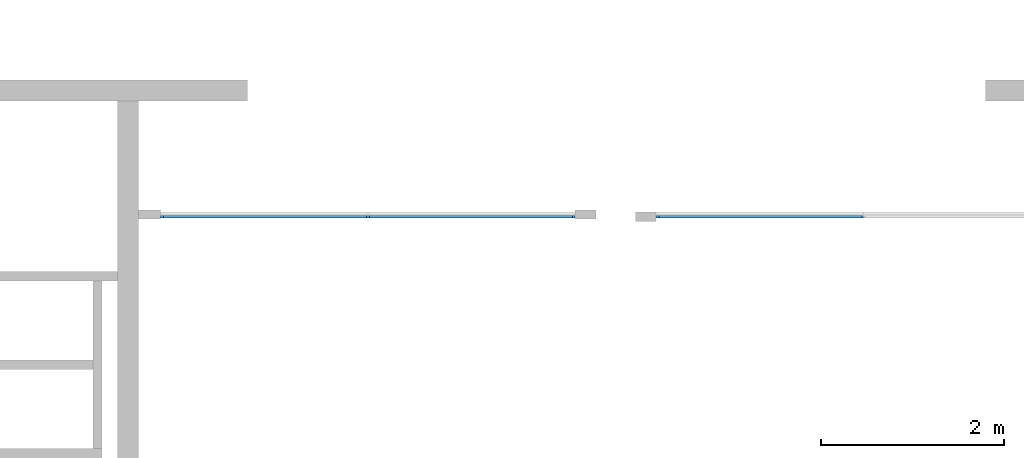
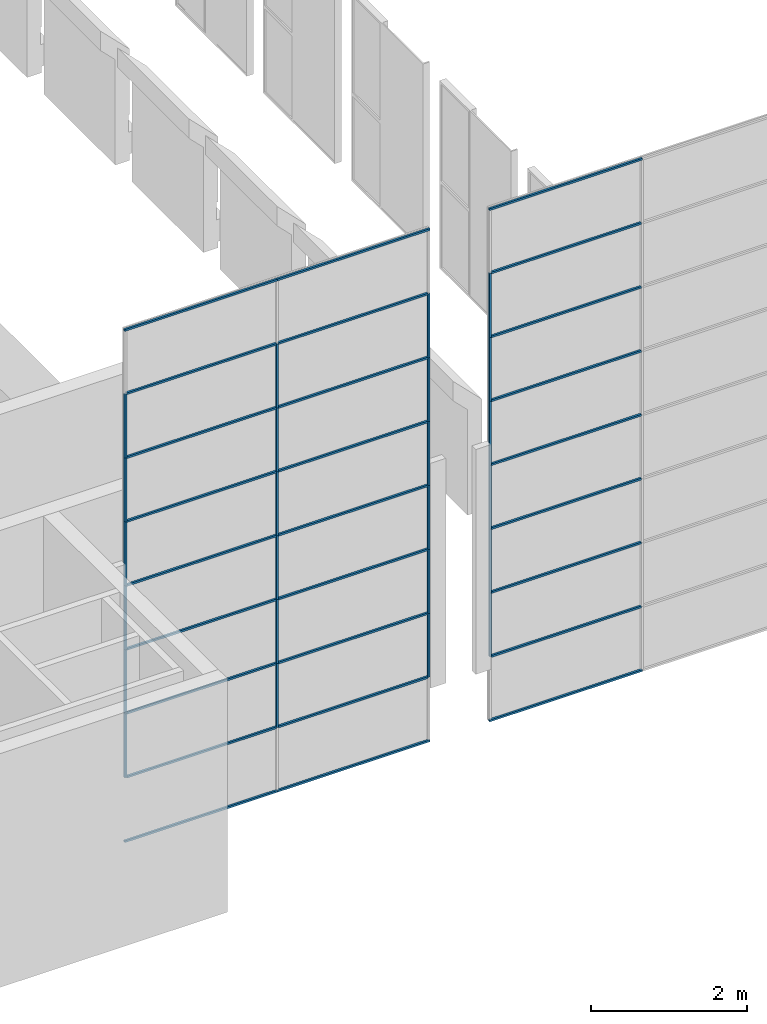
# One storey, part 2 of 16: 51 members, 2 elements without a shape of their own.
"""IFC2X3 building model written with IfcOpenShell, lengths in millimetres."""

from ifc_helpers import new_model, entity, si_unit, converted_unit, derived_unit, direction, frame, origin, origin_2d_with_axis, place, context, subcontext, project, spatial, rectangle, extrude, source, transform, mapped, material, type_object, type_shapes, element, aggregate, save


model = new_model("IFC2X3")

# Units and contexts
model_context = context("Model", 3, precision=0.01, world=origin(), true_north=direction((6.12303176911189e-17, 1.0)))
body_context = subcontext(model_context, "Body", "Model", "MODEL_VIEW")
ifc_project = project(units=[si_unit("LENGTHUNIT", "METRE", prefix="MILLI"), si_unit("AREAUNIT", "SQUARE_METRE"), si_unit("VOLUMEUNIT", "CUBIC_METRE"), converted_unit("PLANEANGLEUNIT", "DEGREE", entity("IfcRatioMeasure", 0.0174532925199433), si_unit("PLANEANGLEUNIT", "RADIAN"), dimensions=[0, 0, 0, 0, 0, 0, 0]), si_unit("MASSUNIT", "GRAM", prefix="KILO"), derived_unit("MASSDENSITYUNIT", [(si_unit("MASSUNIT", "GRAM", prefix="KILO"), 1), (si_unit("LENGTHUNIT", "METRE"), -3)]), derived_unit("MOMENTOFINERTIAUNIT", [(si_unit("LENGTHUNIT", "METRE"), 4)]), si_unit("TIMEUNIT", "SECOND"), si_unit("FREQUENCYUNIT", "HERTZ"), si_unit("THERMODYNAMICTEMPERATUREUNIT", "DEGREE_CELSIUS"), derived_unit("THERMALTRANSMITTANCEUNIT", [(si_unit("MASSUNIT", "GRAM", prefix="KILO"), 1), (si_unit("THERMODYNAMICTEMPERATUREUNIT", "KELVIN"), -1), (si_unit("TIMEUNIT", "SECOND"), -3)]), derived_unit("VOLUMETRICFLOWRATEUNIT", [(si_unit("LENGTHUNIT", "METRE"), 3), (si_unit("TIMEUNIT", "SECOND"), -1)]), si_unit("ELECTRICCURRENTUNIT", "AMPERE"), si_unit("ELECTRICVOLTAGEUNIT", "VOLT"), si_unit("POWERUNIT", "WATT"), si_unit("FORCEUNIT", "NEWTON", prefix="KILO"), si_unit("ILLUMINANCEUNIT", "LUX"), si_unit("LUMINOUSFLUXUNIT", "LUMEN"), si_unit("LUMINOUSINTENSITYUNIT", "CANDELA"), derived_unit("USERDEFINED", [(si_unit("MASSUNIT", "GRAM", prefix="KILO"), -1), (si_unit("LENGTHUNIT", "METRE"), -2), (si_unit("TIMEUNIT", "SECOND"), 3), (si_unit("LUMINOUSFLUXUNIT", "LUMEN"), 1)]), derived_unit("LINEARVELOCITYUNIT", [(si_unit("LENGTHUNIT", "METRE"), 1), (si_unit("TIMEUNIT", "SECOND"), -1)]), si_unit("PRESSUREUNIT", "PASCAL"), derived_unit("USERDEFINED", [(si_unit("LENGTHUNIT", "METRE"), -2), (si_unit("MASSUNIT", "GRAM", prefix="KILO"), 1), (si_unit("TIMEUNIT", "SECOND"), -2)]), derived_unit("LINEARFORCEUNIT", [(si_unit("MASSUNIT", "GRAM", prefix="KILO"), 1), (si_unit("LENGTHUNIT", "METRE"), 1), (si_unit("TIMEUNIT", "SECOND"), -2), (si_unit("LENGTHUNIT", "METRE"), -1)]), derived_unit("PLANARFORCEUNIT", [(si_unit("MASSUNIT", "GRAM", prefix="KILO"), 1), (si_unit("LENGTHUNIT", "METRE"), 1), (si_unit("TIMEUNIT", "SECOND"), -2), (si_unit("LENGTHUNIT", "METRE"), -2)])], contexts=[model_context])

# Site, building, storey
site_placement = place(None, frame((10627.5135316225, 21939.0796949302, 0.0)))
site = spatial("IfcSite", under=ifc_project, at=site_placement, Name="Default", CompositionType="ELEMENT")
building_placement = place(site_placement, origin())
building = spatial("IfcBuilding", under=site, at=building_placement, CompositionType="ELEMENT")
storey_placement = place(building_placement, frame((0.0, 0.0, 3660.0)))
storey = spatial("IfcBuildingStorey", under=building, at=storey_placement, Name="R+1", CompositionType="ELEMENT", Elevation=3660.0)

# Curtain wall, members
curtain_wall_type = type_object("IfcCurtainWallType", Name="Curtain Wall:Curtain_Wall-Exterior_Glazing", PredefinedType="NOTDEFINED")
curtain_wall_1_placement = place(storey_placement, frame((0.0, 0.0, -3660.0)))
curtain_wall_1 = element("IfcCurtainWall", 1, at=curtain_wall_1_placement, inside=storey, type_object=curtain_wall_type, Name="Curtain Wall:Curtain_Wall-Exterior_Glazing", ObjectType="Curtain Wall:Curtain_Wall-Exterior_Glazing")
ifc_material = material(Name="Aluminium")
member_type_1 = type_object("IfcMemberType", Name="Rectangular Mullion:30mm_Square", PredefinedType="MULLION", material=ifc_material)
shared_shape_1 = source(origin(), body_context, "Body", "SweptSolid", [
    extrude(rectangle(XDim=30.0, YDim=30.0, at=origin_2d_with_axis()), frame((-15.0, 0.0, -2260.0), z_axis=(0.0, 0.0, 1.0), x_axis=(0.0, -1.0, 0.0)), (0.0, 0.0, 1.0), 2260.0),
])
type_shapes(member_type_1, [shared_shape_1])
member_1_placement = place(storey_placement, frame((26136.4616023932, -18895.8331484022, 7190.0), z_axis=(1.0, 0.0, 0.0), x_axis=(0.0, 0.0, 1.0)))
member_1 = element("IfcMember", 2, at=member_1_placement, type_object=member_type_1, material=ifc_material, Name="Rectangular Mullion:30mm_Square", ObjectType="Rectangular Mullion:30mm_Square", context=body_context, shape_type="MappedRepresentation", body=[
    mapped(shared_shape_1, transform((0.0, 0.0, 0.0), scale=1.0)),
])
member_type_2 = type_object("IfcMemberType", Name="Rectangular Mullion:30mm_Square", PredefinedType="MULLION", material=ifc_material)
shared_shape_2 = source(origin(), body_context, "Body", "SweptSolid", [
    extrude(rectangle(XDim=30.0, YDim=30.0, at=origin_2d_with_axis()), frame((-15.0, 0.0, -2260.0), z_axis=(0.0, 0.0, 1.0), x_axis=(0.0, -1.0, 0.0)), (0.0, 0.0, 1.0), 2260.0),
])
type_shapes(member_type_2, [shared_shape_2])
member_2_placement = place(storey_placement, frame((23876.4616023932, -18895.8331484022, 7190.0), z_axis=(1.0, 0.0, 0.0), x_axis=(0.0, 0.0, 1.0)))
member_2 = element("IfcMember", 3, at=member_2_placement, type_object=member_type_2, material=ifc_material, Name="Rectangular Mullion:30mm_Square", ObjectType="Rectangular Mullion:30mm_Square", context=body_context, shape_type="MappedRepresentation", body=[
    mapped(shared_shape_2, transform((0.0, 0.0, 0.0), scale=1.0)),
])
member_type_3 = type_object("IfcMemberType", Name="Rectangular Mullion:30mm_Square", PredefinedType="MULLION", material=ifc_material)
shared_shape_3 = source(origin(), body_context, "Body", "SweptSolid", [
    extrude(rectangle(XDim=30.0, YDim=30.0, at=origin_2d_with_axis()), frame((0.0, 0.0, -2215.0), z_axis=(0.0, 0.0, 1.0), x_axis=(0.0, -1.0, 0.0)), (0.0, 0.0, 1.0), 2215.0),
])
type_shapes(member_type_3, [shared_shape_3])
member_3_placement = place(storey_placement, frame((23861.4616023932, -18895.8331484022, 171.263601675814), z_axis=(1.0, 0.0, 0.0), x_axis=(0.0, 0.0, 1.0)))
member_3 = element("IfcMember", 4, at=member_3_placement, type_object=member_type_3, material=ifc_material, Name="Rectangular Mullion:30mm_Square", ObjectType="Rectangular Mullion:30mm_Square", context=body_context, shape_type="MappedRepresentation", body=[
    mapped(shared_shape_3, transform((0.0, 0.0, 0.0), scale=1.0)),
])
member_4_placement = place(storey_placement, frame((26106.4616023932, -18895.8331484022, 171.263601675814), z_axis=(1.0, 0.0, 0.0), x_axis=(0.0, 0.0, 1.0)))
member_4 = element("IfcMember", 5, at=member_4_placement, type_object=member_type_3, material=ifc_material, Name="Rectangular Mullion:30mm_Square", ObjectType="Rectangular Mullion:30mm_Square", context=body_context, shape_type="MappedRepresentation", body=[
    mapped(shared_shape_3, transform((0.0, 0.0, 0.0), scale=1.0)),
])
member_5_placement = place(storey_placement, frame((23861.4616023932, -18895.8331484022, 1171.79737286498), z_axis=(1.0, 0.0, 0.0), x_axis=(0.0, 0.0, 1.0)))
member_5 = element("IfcMember", 6, at=member_5_placement, type_object=member_type_3, material=ifc_material, Name="Rectangular Mullion:30mm_Square", ObjectType="Rectangular Mullion:30mm_Square", context=body_context, shape_type="MappedRepresentation", body=[
    mapped(shared_shape_3, transform((0.0, 0.0, 0.0), scale=1.0)),
])
member_6_placement = place(storey_placement, frame((26106.4616023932, -18895.8331484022, 1171.79737286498), z_axis=(1.0, 0.0, 0.0), x_axis=(0.0, 0.0, 1.0)))
member_6 = element("IfcMember", 7, at=member_6_placement, type_object=member_type_3, material=ifc_material, Name="Rectangular Mullion:30mm_Square", ObjectType="Rectangular Mullion:30mm_Square", context=body_context, shape_type="MappedRepresentation", body=[
    mapped(shared_shape_3, transform((0.0, 0.0, 0.0), scale=1.0)),
])
member_7_placement = place(storey_placement, frame((23861.4616023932, -18895.8331484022, 2172.33114405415), z_axis=(1.0, 0.0, 0.0), x_axis=(0.0, 0.0, 1.0)))
member_7 = element("IfcMember", 8, at=member_7_placement, type_object=member_type_3, material=ifc_material, Name="Rectangular Mullion:30mm_Square", ObjectType="Rectangular Mullion:30mm_Square", context=body_context, shape_type="MappedRepresentation", body=[
    mapped(shared_shape_3, transform((0.0, 0.0, 0.0), scale=1.0)),
])
member_8_placement = place(storey_placement, frame((26106.4616023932, -18895.8331484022, 2172.33114405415), z_axis=(1.0, 0.0, 0.0), x_axis=(0.0, 0.0, 1.0)))
member_8 = element("IfcMember", 9, at=member_8_placement, type_object=member_type_3, material=ifc_material, Name="Rectangular Mullion:30mm_Square", ObjectType="Rectangular Mullion:30mm_Square", context=body_context, shape_type="MappedRepresentation", body=[
    mapped(shared_shape_3, transform((0.0, 0.0, 0.0), scale=1.0)),
])
member_9_placement = place(storey_placement, frame((23861.4616023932, -18895.8331484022, 3172.86491524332), z_axis=(1.0, 0.0, 0.0), x_axis=(0.0, 0.0, 1.0)))
member_9 = element("IfcMember", 10, at=member_9_placement, type_object=member_type_3, material=ifc_material, Name="Rectangular Mullion:30mm_Square", ObjectType="Rectangular Mullion:30mm_Square", context=body_context, shape_type="MappedRepresentation", body=[
    mapped(shared_shape_3, transform((0.0, 0.0, 0.0), scale=1.0)),
])
member_10_placement = place(storey_placement, frame((26106.4616023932, -18895.8331484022, 3172.86491524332), z_axis=(1.0, 0.0, 0.0), x_axis=(0.0, 0.0, 1.0)))
member_10 = element("IfcMember", 11, at=member_10_placement, type_object=member_type_3, material=ifc_material, Name="Rectangular Mullion:30mm_Square", ObjectType="Rectangular Mullion:30mm_Square", context=body_context, shape_type="MappedRepresentation", body=[
    mapped(shared_shape_3, transform((0.0, 0.0, 0.0), scale=1.0)),
])
member_11_placement = place(storey_placement, frame((23861.4616023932, -18895.8331484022, 4173.39868643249), z_axis=(1.0, 0.0, 0.0), x_axis=(0.0, 0.0, 1.0)))
member_11 = element("IfcMember", 12, at=member_11_placement, type_object=member_type_3, material=ifc_material, Name="Rectangular Mullion:30mm_Square", ObjectType="Rectangular Mullion:30mm_Square", context=body_context, shape_type="MappedRepresentation", body=[
    mapped(shared_shape_3, transform((0.0, 0.0, 0.0), scale=1.0)),
])
member_12_placement = place(storey_placement, frame((26106.4616023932, -18895.8331484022, 4173.39868643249), z_axis=(1.0, 0.0, 0.0), x_axis=(0.0, 0.0, 1.0)))
member_12 = element("IfcMember", 13, at=member_12_placement, type_object=member_type_3, material=ifc_material, Name="Rectangular Mullion:30mm_Square", ObjectType="Rectangular Mullion:30mm_Square", context=body_context, shape_type="MappedRepresentation", body=[
    mapped(shared_shape_3, transform((0.0, 0.0, 0.0), scale=1.0)),
])
member_13_placement = place(storey_placement, frame((23861.4616023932, -18895.8331484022, 5173.93245762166), z_axis=(1.0, 0.0, 0.0), x_axis=(0.0, 0.0, 1.0)))
member_13 = element("IfcMember", 14, at=member_13_placement, type_object=member_type_3, material=ifc_material, Name="Rectangular Mullion:30mm_Square", ObjectType="Rectangular Mullion:30mm_Square", context=body_context, shape_type="MappedRepresentation", body=[
    mapped(shared_shape_3, transform((0.0, 0.0, 0.0), scale=1.0)),
])
member_14_placement = place(storey_placement, frame((26106.4616023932, -18895.8331484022, 5173.93245762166), z_axis=(1.0, 0.0, 0.0), x_axis=(0.0, 0.0, 1.0)))
member_14 = element("IfcMember", 15, at=member_14_placement, type_object=member_type_3, material=ifc_material, Name="Rectangular Mullion:30mm_Square", ObjectType="Rectangular Mullion:30mm_Square", context=body_context, shape_type="MappedRepresentation", body=[
    mapped(shared_shape_3, transform((0.0, 0.0, 0.0), scale=1.0)),
])
member_15_placement = place(storey_placement, frame((23861.4616023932, -18895.8331484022, 6174.46622881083), z_axis=(1.0, 0.0, 0.0), x_axis=(0.0, 0.0, 1.0)))
member_15 = element("IfcMember", 16, at=member_15_placement, type_object=member_type_3, material=ifc_material, Name="Rectangular Mullion:30mm_Square", ObjectType="Rectangular Mullion:30mm_Square", context=body_context, shape_type="MappedRepresentation", body=[
    mapped(shared_shape_3, transform((0.0, 0.0, 0.0), scale=1.0)),
])
member_16_placement = place(storey_placement, frame((26106.4616023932, -18895.8331484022, 6174.46622881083), z_axis=(1.0, 0.0, 0.0), x_axis=(0.0, 0.0, 1.0)))
member_16 = element("IfcMember", 17, at=member_16_placement, type_object=member_type_3, material=ifc_material, Name="Rectangular Mullion:30mm_Square", ObjectType="Rectangular Mullion:30mm_Square", context=body_context, shape_type="MappedRepresentation", body=[
    mapped(shared_shape_3, transform((0.0, 0.0, 0.0), scale=1.0)),
])
member_type_4 = type_object("IfcMemberType", Name="Rectangular Mullion:30mm_Square", PredefinedType="MULLION", material=ifc_material)
shared_shape_4 = source(origin(), body_context, "Body", "SweptSolid", [
    extrude(rectangle(XDim=30.0, YDim=30.0, at=origin_2d_with_axis()), frame((0.0, 0.0, -1000.53377118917), z_axis=(0.0, 0.0, 1.0), x_axis=(0.0, -1.0, 0.0)), (0.0, 0.0, 1.0), 1000.53377118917),
])
type_shapes(member_type_4, [shared_shape_4])
member_17_placement = place(storey_placement, frame((23876.4616023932, -18895.8331484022, 171.263601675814), z_axis=(0.0, 0.0, -1.0), x_axis=(1.0, 0.0, 0.0)))
member_17 = element("IfcMember", 18, at=member_17_placement, type_object=member_type_4, material=ifc_material, Name="Rectangular Mullion:30mm_Square", ObjectType="Rectangular Mullion:30mm_Square", context=body_context, shape_type="MappedRepresentation", body=[
    mapped(shared_shape_4, transform((0.0, 0.0, 0.0), scale=1.0)),
])
member_18_placement = place(storey_placement, frame((23876.4616023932, -18895.8331484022, 1171.79737286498), z_axis=(0.0, 0.0, -1.0), x_axis=(1.0, 0.0, 0.0)))
member_18 = element("IfcMember", 19, at=member_18_placement, type_object=member_type_4, material=ifc_material, Name="Rectangular Mullion:30mm_Square", ObjectType="Rectangular Mullion:30mm_Square", context=body_context, shape_type="MappedRepresentation", body=[
    mapped(shared_shape_4, transform((0.0, 0.0, 0.0), scale=1.0)),
])
member_19_placement = place(storey_placement, frame((23876.4616023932, -18895.8331484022, 2172.33114405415), z_axis=(0.0, 0.0, -1.0), x_axis=(1.0, 0.0, 0.0)))
member_19 = element("IfcMember", 20, at=member_19_placement, type_object=member_type_4, material=ifc_material, Name="Rectangular Mullion:30mm_Square", ObjectType="Rectangular Mullion:30mm_Square", context=body_context, shape_type="MappedRepresentation", body=[
    mapped(shared_shape_4, transform((0.0, 0.0, 0.0), scale=1.0)),
])
member_20_placement = place(storey_placement, frame((23876.4616023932, -18895.8331484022, 3172.86491524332), z_axis=(0.0, 0.0, -1.0), x_axis=(1.0, 0.0, 0.0)))
member_20 = element("IfcMember", 21, at=member_20_placement, type_object=member_type_4, material=ifc_material, Name="Rectangular Mullion:30mm_Square", ObjectType="Rectangular Mullion:30mm_Square", context=body_context, shape_type="MappedRepresentation", body=[
    mapped(shared_shape_4, transform((0.0, 0.0, 0.0), scale=1.0)),
])
member_21_placement = place(storey_placement, frame((23876.4616023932, -18895.8331484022, 4173.39868643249), z_axis=(0.0, 0.0, -1.0), x_axis=(1.0, 0.0, 0.0)))
member_21 = element("IfcMember", 22, at=member_21_placement, type_object=member_type_4, material=ifc_material, Name="Rectangular Mullion:30mm_Square", ObjectType="Rectangular Mullion:30mm_Square", context=body_context, shape_type="MappedRepresentation", body=[
    mapped(shared_shape_4, transform((0.0, 0.0, 0.0), scale=1.0)),
])
member_22_placement = place(storey_placement, frame((23876.4616023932, -18895.8331484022, 5173.93245762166), z_axis=(0.0, 0.0, -1.0), x_axis=(1.0, 0.0, 0.0)))
member_22 = element("IfcMember", 23, at=member_22_placement, type_object=member_type_4, material=ifc_material, Name="Rectangular Mullion:30mm_Square", ObjectType="Rectangular Mullion:30mm_Square", context=body_context, shape_type="MappedRepresentation", body=[
    mapped(shared_shape_4, transform((0.0, 0.0, 0.0), scale=1.0)),
])
member_type_5 = type_object("IfcMemberType", Name="Rectangular Mullion:30mm_Square", PredefinedType="MULLION", material=ifc_material)
shared_shape_5 = source(origin(), body_context, "Body", "SweptSolid", [
    extrude(rectangle(XDim=30.0, YDim=30.0, at=origin_2d_with_axis()), frame((-15.0, 0.0, -1000.53377118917), z_axis=(0.0, 0.0, 1.0), x_axis=(0.0, -1.0, 0.0)), (0.0, 0.0, 1.0), 1000.53377118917),
])
type_shapes(member_type_5, [shared_shape_5])
member_23_placement = place(storey_placement, frame((21616.4616023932, -18895.8331484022, 1171.79737286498), z_axis=(0.0, 0.0, 1.0), x_axis=(-1.0, 0.0, 0.0)))
member_23 = element("IfcMember", 24, at=member_23_placement, type_object=member_type_5, material=ifc_material, Name="Rectangular Mullion:30mm_Square", ObjectType="Rectangular Mullion:30mm_Square", context=body_context, shape_type="MappedRepresentation", body=[
    mapped(shared_shape_5, transform((0.0, 0.0, 0.0), scale=1.0)),
])
member_24_placement = place(storey_placement, frame((21616.4616023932, -18895.8331484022, 2172.33114405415), z_axis=(0.0, 0.0, 1.0), x_axis=(-1.0, 0.0, 0.0)))
member_24 = element("IfcMember", 25, at=member_24_placement, type_object=member_type_5, material=ifc_material, Name="Rectangular Mullion:30mm_Square", ObjectType="Rectangular Mullion:30mm_Square", context=body_context, shape_type="MappedRepresentation", body=[
    mapped(shared_shape_5, transform((0.0, 0.0, 0.0), scale=1.0)),
])
member_25_placement = place(storey_placement, frame((21616.4616023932, -18895.8331484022, 3172.86491524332), z_axis=(0.0, 0.0, 1.0), x_axis=(-1.0, 0.0, 0.0)))
member_25 = element("IfcMember", 26, at=member_25_placement, type_object=member_type_5, material=ifc_material, Name="Rectangular Mullion:30mm_Square", ObjectType="Rectangular Mullion:30mm_Square", context=body_context, shape_type="MappedRepresentation", body=[
    mapped(shared_shape_5, transform((0.0, 0.0, 0.0), scale=1.0)),
])
member_26_placement = place(storey_placement, frame((21616.4616023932, -18895.8331484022, 4173.39868643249), z_axis=(0.0, 0.0, 1.0), x_axis=(-1.0, 0.0, 0.0)))
member_26 = element("IfcMember", 27, at=member_26_placement, type_object=member_type_5, material=ifc_material, Name="Rectangular Mullion:30mm_Square", ObjectType="Rectangular Mullion:30mm_Square", context=body_context, shape_type="MappedRepresentation", body=[
    mapped(shared_shape_5, transform((0.0, 0.0, 0.0), scale=1.0)),
])
member_27_placement = place(storey_placement, frame((21616.4616023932, -18895.8331484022, 5173.93245762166), z_axis=(0.0, 0.0, 1.0), x_axis=(-1.0, 0.0, 0.0)))
member_27 = element("IfcMember", 28, at=member_27_placement, type_object=member_type_5, material=ifc_material, Name="Rectangular Mullion:30mm_Square", ObjectType="Rectangular Mullion:30mm_Square", context=body_context, shape_type="MappedRepresentation", body=[
    mapped(shared_shape_5, transform((0.0, 0.0, 0.0), scale=1.0)),
])
member_28_placement = place(storey_placement, frame((21616.4616023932, -18895.8331484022, 6174.46622881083), z_axis=(0.0, 0.0, 1.0), x_axis=(-1.0, 0.0, 0.0)))
member_28 = element("IfcMember", 29, at=member_28_placement, type_object=member_type_5, material=ifc_material, Name="Rectangular Mullion:30mm_Square", ObjectType="Rectangular Mullion:30mm_Square", context=body_context, shape_type="MappedRepresentation", body=[
    mapped(shared_shape_5, transform((0.0, 0.0, 0.0), scale=1.0)),
])
member_type_6 = type_object("IfcMemberType", Name="Rectangular Mullion:30mm_Square", PredefinedType="MULLION", material=ifc_material)
shared_shape_6 = source(origin(), body_context, "Body", "SweptSolid", [
    extrude(rectangle(XDim=30.0, YDim=30.0, at=origin_2d_with_axis()), frame((-15.0, 0.0, -2260.0), z_axis=(0.0, 0.0, 1.0), x_axis=(0.0, -1.0, 0.0)), (0.0, 0.0, 1.0), 2260.0),
])
type_shapes(member_type_6, [shared_shape_6])
member_29_placement = place(storey_placement, frame((21616.4616023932, -18895.8331484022, -844.270169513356), z_axis=(-1.0, 0.0, 0.0), x_axis=(0.0, 0.0, -1.0)))
member_29 = element("IfcMember", 30, at=member_29_placement, type_object=member_type_6, material=ifc_material, Name="Rectangular Mullion:30mm_Square", ObjectType="Rectangular Mullion:30mm_Square", context=body_context, shape_type="MappedRepresentation", body=[
    mapped(shared_shape_6, transform((0.0, 0.0, 0.0), scale=1.0)),
])
member_type_7 = type_object("IfcMemberType", Name="Rectangular Mullion:30mm_Square", PredefinedType="MULLION", material=ifc_material)
shared_shape_7 = source(origin(), body_context, "Body", "SweptSolid", [
    extrude(rectangle(XDim=30.0, YDim=30.0, at=origin_2d_with_axis()), frame((-15.0, 0.0, -2260.0), z_axis=(0.0, 0.0, 1.0), x_axis=(0.0, -1.0, 0.0)), (0.0, 0.0, 1.0), 2260.0),
])
type_shapes(member_type_7, [shared_shape_7])
member_30_placement = place(storey_placement, frame((23876.4616023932, -18895.8331484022, -844.270169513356), z_axis=(-1.0, 0.0, 0.0), x_axis=(0.0, 0.0, -1.0)))
member_30 = element("IfcMember", 31, at=member_30_placement, type_object=member_type_7, material=ifc_material, Name="Rectangular Mullion:30mm_Square", ObjectType="Rectangular Mullion:30mm_Square", context=body_context, shape_type="MappedRepresentation", body=[
    mapped(shared_shape_7, transform((0.0, 0.0, 0.0), scale=1.0)),
])
member_type_8 = type_object("IfcMemberType", Name="Rectangular Mullion:30mm_Square", PredefinedType="MULLION", material=ifc_material)
shared_shape_8 = source(origin(), body_context, "Body", "SweptSolid", [
    extrude(rectangle(XDim=30.0, YDim=30.0, at=origin_2d_with_axis()), frame((-15.0, 0.0, -1000.53377118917), z_axis=(0.0, 0.0, 1.0), x_axis=(0.0, -1.0, 0.0)), (0.0, 0.0, 1.0), 1000.53377118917),
])
type_shapes(member_type_8, [shared_shape_8])
member_31_placement = place(storey_placement, frame((26136.4616023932, -18895.8331484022, 171.263601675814), z_axis=(0.0, 0.0, -1.0), x_axis=(1.0, 0.0, 0.0)))
member_31 = element("IfcMember", 32, at=member_31_placement, type_object=member_type_8, material=ifc_material, Name="Rectangular Mullion:30mm_Square", ObjectType="Rectangular Mullion:30mm_Square", context=body_context, shape_type="MappedRepresentation", body=[
    mapped(shared_shape_8, transform((0.0, 0.0, 0.0), scale=1.0)),
])
member_32_placement = place(storey_placement, frame((26136.4616023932, -18895.8331484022, 1171.79737286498), z_axis=(0.0, 0.0, -1.0), x_axis=(1.0, 0.0, 0.0)))
member_32 = element("IfcMember", 33, at=member_32_placement, type_object=member_type_8, material=ifc_material, Name="Rectangular Mullion:30mm_Square", ObjectType="Rectangular Mullion:30mm_Square", context=body_context, shape_type="MappedRepresentation", body=[
    mapped(shared_shape_8, transform((0.0, 0.0, 0.0), scale=1.0)),
])
member_33_placement = place(storey_placement, frame((26136.4616023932, -18895.8331484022, 2172.33114405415), z_axis=(0.0, 0.0, -1.0), x_axis=(1.0, 0.0, 0.0)))
member_33 = element("IfcMember", 34, at=member_33_placement, type_object=member_type_8, material=ifc_material, Name="Rectangular Mullion:30mm_Square", ObjectType="Rectangular Mullion:30mm_Square", context=body_context, shape_type="MappedRepresentation", body=[
    mapped(shared_shape_8, transform((0.0, 0.0, 0.0), scale=1.0)),
])
member_34_placement = place(storey_placement, frame((26136.4616023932, -18895.8331484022, 3172.86491524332), z_axis=(0.0, 0.0, -1.0), x_axis=(1.0, 0.0, 0.0)))
member_34 = element("IfcMember", 35, at=member_34_placement, type_object=member_type_8, material=ifc_material, Name="Rectangular Mullion:30mm_Square", ObjectType="Rectangular Mullion:30mm_Square", context=body_context, shape_type="MappedRepresentation", body=[
    mapped(shared_shape_8, transform((0.0, 0.0, 0.0), scale=1.0)),
])
member_35_placement = place(storey_placement, frame((26136.4616023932, -18895.8331484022, 4173.39868643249), z_axis=(0.0, 0.0, -1.0), x_axis=(1.0, 0.0, 0.0)))
member_35 = element("IfcMember", 36, at=member_35_placement, type_object=member_type_8, material=ifc_material, Name="Rectangular Mullion:30mm_Square", ObjectType="Rectangular Mullion:30mm_Square", context=body_context, shape_type="MappedRepresentation", body=[
    mapped(shared_shape_8, transform((0.0, 0.0, 0.0), scale=1.0)),
])
member_36_placement = place(storey_placement, frame((26136.4616023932, -18895.8331484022, 5173.93245762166), z_axis=(0.0, 0.0, -1.0), x_axis=(1.0, 0.0, 0.0)))
member_36 = element("IfcMember", 37, at=member_36_placement, type_object=member_type_8, material=ifc_material, Name="Rectangular Mullion:30mm_Square", ObjectType="Rectangular Mullion:30mm_Square", context=body_context, shape_type="MappedRepresentation", body=[
    mapped(shared_shape_8, transform((0.0, 0.0, 0.0), scale=1.0)),
])
aggregate(curtain_wall_1, [member_1, member_2, member_3, member_4, member_17, member_23, member_18, member_5, member_6, member_24, member_25, member_26, member_27, member_28, member_19, member_20, member_21, member_22, member_7, member_8, member_9, member_10, member_11, member_12, member_13, member_14, member_15, member_16, member_29, member_30, member_31, member_32, member_33, member_34, member_35, member_36])

curtain_wall_2_placement = place(storey_placement, frame((0.0, 0.0, -3660.0)))
curtain_wall_2 = element("IfcCurtainWall", 38, at=curtain_wall_2_placement, inside=storey, type_object=curtain_wall_type, Name="Curtain Wall:Curtain_Wall-Exterior_Glazing", ObjectType="Curtain Wall:Curtain_Wall-Exterior_Glazing")
member_type_9 = type_object("IfcMemberType", Name="Rectangular Mullion:30mm_Square", PredefinedType="MULLION", material=ifc_material)
shared_shape_9 = source(origin(), body_context, "Body", "SweptSolid", [
    extrude(rectangle(XDim=30.0, YDim=30.0, at=origin_2d_with_axis()), frame((-15.0, 0.0, -2260.0), z_axis=(0.0, 0.0, 1.0), x_axis=(0.0, -1.0, 0.0)), (0.0, 0.0, 1.0), 2260.0),
])
type_shapes(member_type_9, [shared_shape_9])
member_37_placement = place(storey_placement, frame((27018.5113343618, -18895.8331484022, 7190.0), z_axis=(-1.0, 0.0, 0.0), x_axis=(0.0, 0.0, 1.0)))
member_37 = element("IfcMember", 39, at=member_37_placement, type_object=member_type_9, material=ifc_material, Name="Rectangular Mullion:30mm_Square", ObjectType="Rectangular Mullion:30mm_Square", context=body_context, shape_type="MappedRepresentation", body=[
    mapped(shared_shape_9, transform((0.0, 0.0, 0.0), scale=1.0)),
])
member_type_10 = type_object("IfcMemberType", Name="Rectangular Mullion:30mm_Square", PredefinedType="MULLION", material=ifc_material)
shared_shape_10 = source(origin(), body_context, "Body", "SweptSolid", [
    extrude(rectangle(XDim=30.0, YDim=30.0, at=origin_2d_with_axis()), frame((0.0, 0.0, -2215.0), z_axis=(0.0, 0.0, 1.0), x_axis=(0.0, -1.0, 0.0)), (0.0, 0.0, 1.0), 2215.0),
])
type_shapes(member_type_10, [shared_shape_10])
member_38_placement = place(storey_placement, frame((27048.5113343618, -18895.8331484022, 171.263601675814), z_axis=(-1.0, 0.0, 0.0), x_axis=(0.0, 0.0, 1.0)))
member_38 = element("IfcMember", 40, at=member_38_placement, type_object=member_type_10, material=ifc_material, Name="Rectangular Mullion:30mm_Square", ObjectType="Rectangular Mullion:30mm_Square", context=body_context, shape_type="MappedRepresentation", body=[
    mapped(shared_shape_10, transform((0.0, 0.0, 0.0), scale=1.0)),
])
member_39_placement = place(storey_placement, frame((27048.5113343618, -18895.8331484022, 1171.79737286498), z_axis=(-1.0, 0.0, 0.0), x_axis=(0.0, 0.0, 1.0)))
member_39 = element("IfcMember", 41, at=member_39_placement, type_object=member_type_10, material=ifc_material, Name="Rectangular Mullion:30mm_Square", ObjectType="Rectangular Mullion:30mm_Square", context=body_context, shape_type="MappedRepresentation", body=[
    mapped(shared_shape_10, transform((0.0, 0.0, 0.0), scale=1.0)),
])
member_40_placement = place(storey_placement, frame((27048.5113343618, -18895.8331484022, 2172.33114405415), z_axis=(-1.0, 0.0, 0.0), x_axis=(0.0, 0.0, 1.0)))
member_40 = element("IfcMember", 42, at=member_40_placement, type_object=member_type_10, material=ifc_material, Name="Rectangular Mullion:30mm_Square", ObjectType="Rectangular Mullion:30mm_Square", context=body_context, shape_type="MappedRepresentation", body=[
    mapped(shared_shape_10, transform((0.0, 0.0, 0.0), scale=1.0)),
])
member_41_placement = place(storey_placement, frame((27048.5113343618, -18895.8331484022, 3172.86491524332), z_axis=(-1.0, 0.0, 0.0), x_axis=(0.0, 0.0, 1.0)))
member_41 = element("IfcMember", 43, at=member_41_placement, type_object=member_type_10, material=ifc_material, Name="Rectangular Mullion:30mm_Square", ObjectType="Rectangular Mullion:30mm_Square", context=body_context, shape_type="MappedRepresentation", body=[
    mapped(shared_shape_10, transform((0.0, 0.0, 0.0), scale=1.0)),
])
member_42_placement = place(storey_placement, frame((27048.5113343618, -18895.8331484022, 4173.39868643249), z_axis=(-1.0, 0.0, 0.0), x_axis=(0.0, 0.0, 1.0)))
member_42 = element("IfcMember", 44, at=member_42_placement, type_object=member_type_10, material=ifc_material, Name="Rectangular Mullion:30mm_Square", ObjectType="Rectangular Mullion:30mm_Square", context=body_context, shape_type="MappedRepresentation", body=[
    mapped(shared_shape_10, transform((0.0, 0.0, 0.0), scale=1.0)),
])
member_43_placement = place(storey_placement, frame((27048.5113343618, -18895.8331484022, 5173.93245762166), z_axis=(-1.0, 0.0, 0.0), x_axis=(0.0, 0.0, 1.0)))
member_43 = element("IfcMember", 45, at=member_43_placement, type_object=member_type_10, material=ifc_material, Name="Rectangular Mullion:30mm_Square", ObjectType="Rectangular Mullion:30mm_Square", context=body_context, shape_type="MappedRepresentation", body=[
    mapped(shared_shape_10, transform((0.0, 0.0, 0.0), scale=1.0)),
])
member_44_placement = place(storey_placement, frame((27048.5113343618, -18895.8331484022, 6174.46622881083), z_axis=(-1.0, 0.0, 0.0), x_axis=(0.0, 0.0, 1.0)))
member_44 = element("IfcMember", 46, at=member_44_placement, type_object=member_type_10, material=ifc_material, Name="Rectangular Mullion:30mm_Square", ObjectType="Rectangular Mullion:30mm_Square", context=body_context, shape_type="MappedRepresentation", body=[
    mapped(shared_shape_10, transform((0.0, 0.0, 0.0), scale=1.0)),
])
member_type_11 = type_object("IfcMemberType", Name="Rectangular Mullion:30mm_Square", PredefinedType="MULLION", material=ifc_material)
shared_shape_11 = source(origin(), body_context, "Body", "SweptSolid", [
    extrude(rectangle(XDim=30.0, YDim=30.0, at=origin_2d_with_axis()), frame((-15.0, 0.0, -2260.0), z_axis=(0.0, 0.0, 1.0), x_axis=(0.0, -1.0, 0.0)), (0.0, 0.0, 1.0), 2260.0),
])
type_shapes(member_type_11, [shared_shape_11])
member_45_placement = place(storey_placement, frame((29278.5113343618, -18895.8331484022, -844.270169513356), z_axis=(1.0, 0.0, 0.0), x_axis=(0.0, 0.0, -1.0)))
member_45 = element("IfcMember", 47, at=member_45_placement, type_object=member_type_11, material=ifc_material, Name="Rectangular Mullion:30mm_Square", ObjectType="Rectangular Mullion:30mm_Square", context=body_context, shape_type="MappedRepresentation", body=[
    mapped(shared_shape_11, transform((0.0, 0.0, 0.0), scale=1.0)),
])
member_type_12 = type_object("IfcMemberType", Name="Rectangular Mullion:30mm_Square", PredefinedType="MULLION", material=ifc_material)
shared_shape_12 = source(origin(), body_context, "Body", "SweptSolid", [
    extrude(rectangle(XDim=30.0, YDim=30.0, at=origin_2d_with_axis()), frame((-15.0, 0.0, -1000.53377118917), z_axis=(0.0, 0.0, 1.0), x_axis=(0.0, -1.0, 0.0)), (0.0, 0.0, 1.0), 1000.53377118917),
])
type_shapes(member_type_12, [shared_shape_12])
member_46_placement = place(storey_placement, frame((27018.5113343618, -18895.8331484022, 171.263601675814), z_axis=(0.0, 0.0, -1.0), x_axis=(-1.0, 0.0, 0.0)))
member_46 = element("IfcMember", 48, at=member_46_placement, type_object=member_type_12, material=ifc_material, Name="Rectangular Mullion:30mm_Square", ObjectType="Rectangular Mullion:30mm_Square", context=body_context, shape_type="MappedRepresentation", body=[
    mapped(shared_shape_12, transform((0.0, 0.0, 0.0), scale=1.0)),
])
member_47_placement = place(storey_placement, frame((27018.5113343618, -18895.8331484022, 1171.79737286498), z_axis=(0.0, 0.0, -1.0), x_axis=(-1.0, 0.0, 0.0)))
member_47 = element("IfcMember", 49, at=member_47_placement, type_object=member_type_12, material=ifc_material, Name="Rectangular Mullion:30mm_Square", ObjectType="Rectangular Mullion:30mm_Square", context=body_context, shape_type="MappedRepresentation", body=[
    mapped(shared_shape_12, transform((0.0, 0.0, 0.0), scale=1.0)),
])
member_48_placement = place(storey_placement, frame((27018.5113343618, -18895.8331484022, 2172.33114405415), z_axis=(0.0, 0.0, -1.0), x_axis=(-1.0, 0.0, 0.0)))
member_48 = element("IfcMember", 50, at=member_48_placement, type_object=member_type_12, material=ifc_material, Name="Rectangular Mullion:30mm_Square", ObjectType="Rectangular Mullion:30mm_Square", context=body_context, shape_type="MappedRepresentation", body=[
    mapped(shared_shape_12, transform((0.0, 0.0, 0.0), scale=1.0)),
])
member_49_placement = place(storey_placement, frame((27018.5113343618, -18895.8331484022, 3172.86491524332), z_axis=(0.0, 0.0, -1.0), x_axis=(-1.0, 0.0, 0.0)))
member_49 = element("IfcMember", 51, at=member_49_placement, type_object=member_type_12, material=ifc_material, Name="Rectangular Mullion:30mm_Square", ObjectType="Rectangular Mullion:30mm_Square", context=body_context, shape_type="MappedRepresentation", body=[
    mapped(shared_shape_12, transform((0.0, 0.0, 0.0), scale=1.0)),
])
member_50_placement = place(storey_placement, frame((27018.5113343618, -18895.8331484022, 4173.39868643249), z_axis=(0.0, 0.0, -1.0), x_axis=(-1.0, 0.0, 0.0)))
member_50 = element("IfcMember", 52, at=member_50_placement, type_object=member_type_12, material=ifc_material, Name="Rectangular Mullion:30mm_Square", ObjectType="Rectangular Mullion:30mm_Square", context=body_context, shape_type="MappedRepresentation", body=[
    mapped(shared_shape_12, transform((0.0, 0.0, 0.0), scale=1.0)),
])
member_51_placement = place(storey_placement, frame((27018.5113343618, -18895.8331484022, 5173.93245762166), z_axis=(0.0, 0.0, -1.0), x_axis=(-1.0, 0.0, 0.0)))
member_51 = element("IfcMember", 53, at=member_51_placement, type_object=member_type_12, material=ifc_material, Name="Rectangular Mullion:30mm_Square", ObjectType="Rectangular Mullion:30mm_Square", context=body_context, shape_type="MappedRepresentation", body=[
    mapped(shared_shape_12, transform((0.0, 0.0, 0.0), scale=1.0)),
])
aggregate(curtain_wall_2, [member_37, member_38, member_39, member_40, member_41, member_42, member_43, member_44, member_45, member_46, member_47, member_48, member_49, member_50, member_51])

save(model, "model.ifc")
